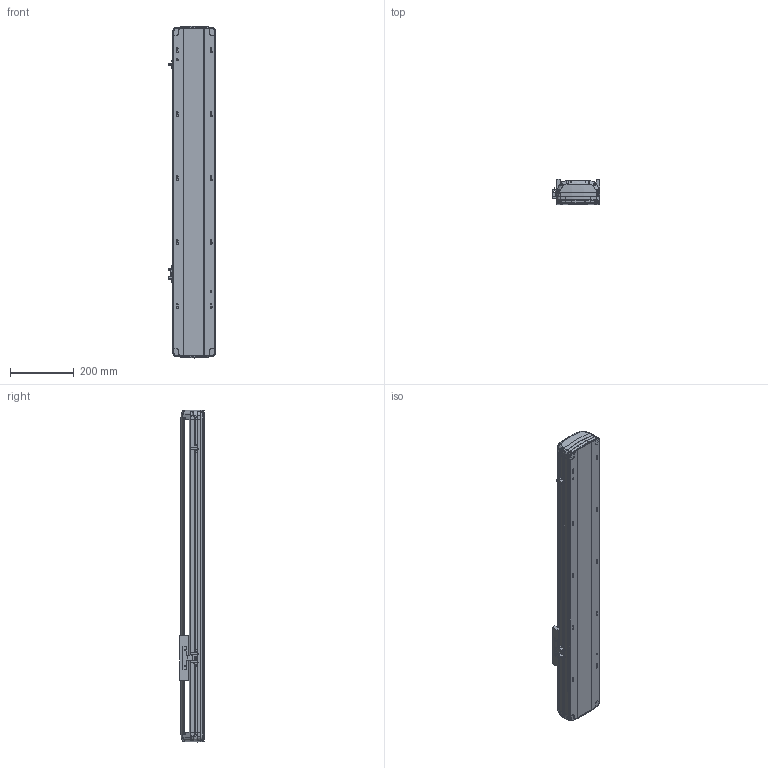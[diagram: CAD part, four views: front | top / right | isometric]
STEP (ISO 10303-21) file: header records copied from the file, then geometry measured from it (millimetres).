
FILE_DESCRIPTION (( 'STEP AP214' ), '1' );
FILE_NAME ('RTH14-XX-650-B-M20-C4.STEP', '2025-10-25T02:22:00', ( 'Microsoft' ), ( 'Microsoft' ), 'SwSTEP 2.0', 'SolidWorks 2018', '' );
FILE_SCHEMA (( 'AUTOMOTIVE_DESIGN' ));
Length unit declared in the file: millimetre
Products named in the file (7): N_RTH14-B-011P菁釱^RTH14-XX-XX-B-M20-C4; N_RTH14-R-004-SFSR16賑釱^RTH14-XX-XX-B-M20-C4; N_RTH14-B-007奻裔^RTH14-XX-XX-B-M20-C4; N_RTH13-L-012感应片（外置）^RTH14-XX-XX-B-M20-C4; N_OMRON EE-SX672 传感器^RTH14-XX-XX-B-M20-C4; RTH14-XX-650-B-M20-C4; N_RTH14-GY-001P^RTH14-XX-XX-B-M20-C4
Assembly tree (9 placements, depth 2):
  RTH14-XX-650-B-M20-C4
    N_RTH14-B-011P菁釱^RTH14-XX-XX-B-M20-C4
    N_RTH14-B-007奻裔^RTH14-XX-XX-B-M20-C4
    N_RTH13-L-012感应片（外置）^RTH14-XX-XX-B-M20-C4
    N_OMRON EE-SX672 传感器^RTH14-XX-XX-B-M20-C4  x3
    N_RTH14-R-004-SFSR16賑釱^RTH14-XX-XX-B-M20-C4
    N_RTH14-GY-001P^RTH14-XX-XX-B-M20-C4  x2
Bounding box: 148.5 x 78.03 x 1038.99 mm (x, y, z)
Volume: 4278980.9 mm3; surface area: 987943.8 mm2
Topology: 9 solids, 9 shells, 1918 faces, 5404 edges, 3518 vertices
Faces by surface type: plane 979, bspline 450, cylinder 425, cone 56, torus 8
Entity records: 46660 total; most frequent: CARTESIAN_POINT 20866, ORIENTED_EDGE 5824, DIRECTION 4275, EDGE_CURVE 2912, VERTEX_POINT 1904, VECTOR 1639, LINE 1639, AXIS2_PLACEMENT_3D 1318
